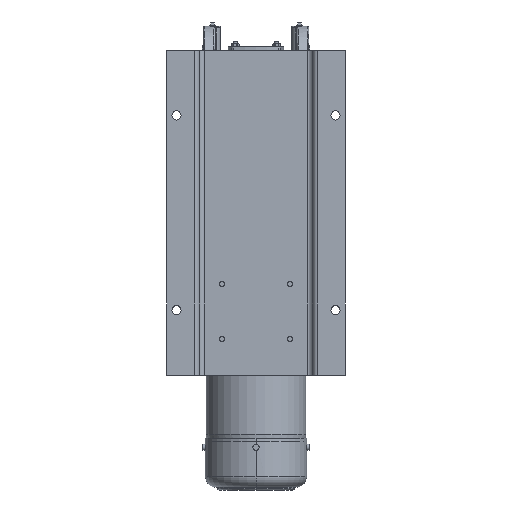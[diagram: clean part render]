
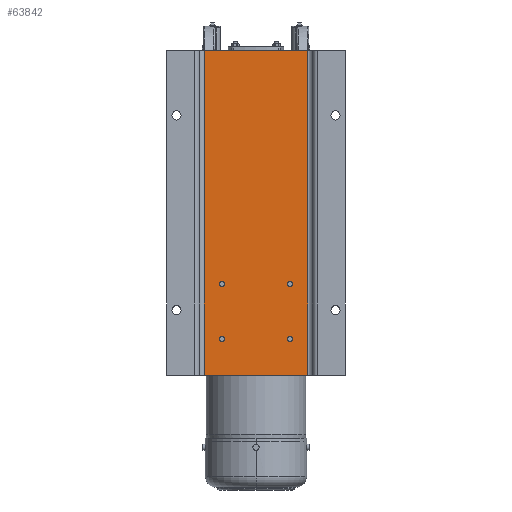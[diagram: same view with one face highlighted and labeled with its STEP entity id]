
A CAD part, front view. The second image highlights one B-rep face of the part: STEP entity #63842.
In plain terms, the highlighted planar face has unit normal (0, -1, 0).
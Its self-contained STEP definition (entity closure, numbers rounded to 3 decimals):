
#62626=DIRECTION('',(1.,0.,0.));
#62627=VECTOR('',#62626,159.);
#62628=CARTESIAN_POINT('',(-79.5,44.,-250.));
#62629=LINE('',#62628,#62627);
#62864=DIRECTION('',(0.,0.,1.));
#62865=VECTOR('',#62864,500.);
#62866=CARTESIAN_POINT('',(79.5,44.,-250.));
#62867=LINE('',#62866,#62865);
#62868=DIRECTION('',(0.,0.,1.));
#62869=VECTOR('',#62868,500.);
#62870=CARTESIAN_POINT('',(-79.5,44.,-250.));
#62871=LINE('',#62870,#62869);
#62872=CARTESIAN_POINT('',(-52.5,44.,-109.5));
#62873=DIRECTION('',(0.,1.,0.));
#62874=DIRECTION('',(1.,0.,0.));
#62875=AXIS2_PLACEMENT_3D('',#62872,#62873,#62874);
#62877=CARTESIAN_POINT('',(-52.5,44.,-109.5));
#62878=DIRECTION('',(0.,1.,0.));
#62879=DIRECTION('',(-1.,0.,0.));
#62880=AXIS2_PLACEMENT_3D('',#62877,#62878,#62879);
#62882=CARTESIAN_POINT('',(52.5,44.,-109.5));
#62883=DIRECTION('',(0.,1.,0.));
#62884=DIRECTION('',(1.,0.,0.));
#62885=AXIS2_PLACEMENT_3D('',#62882,#62883,#62884);
#62887=CARTESIAN_POINT('',(52.5,44.,-109.5));
#62888=DIRECTION('',(0.,1.,0.));
#62889=DIRECTION('',(-1.,0.,0.));
#62890=AXIS2_PLACEMENT_3D('',#62887,#62888,#62889);
#62892=CARTESIAN_POINT('',(-52.5,44.,-194.5));
#62893=DIRECTION('',(0.,1.,0.));
#62894=DIRECTION('',(1.,0.,0.));
#62895=AXIS2_PLACEMENT_3D('',#62892,#62893,#62894);
#62897=CARTESIAN_POINT('',(-52.5,44.,-194.5));
#62898=DIRECTION('',(0.,1.,0.));
#62899=DIRECTION('',(-1.,0.,0.));
#62900=AXIS2_PLACEMENT_3D('',#62897,#62898,#62899);
#62902=CARTESIAN_POINT('',(52.5,44.,-194.5));
#62903=DIRECTION('',(0.,1.,0.));
#62904=DIRECTION('',(1.,0.,0.));
#62905=AXIS2_PLACEMENT_3D('',#62902,#62903,#62904);
#62907=CARTESIAN_POINT('',(52.5,44.,-194.5));
#62908=DIRECTION('',(0.,1.,0.));
#62909=DIRECTION('',(-1.,0.,0.));
#62910=AXIS2_PLACEMENT_3D('',#62907,#62908,#62909);
#63014=DIRECTION('',(1.,0.,0.));
#63015=VECTOR('',#63014,159.);
#63016=CARTESIAN_POINT('',(-79.5,44.,250.));
#63017=LINE('',#63016,#63015);
#63286=CARTESIAN_POINT('',(-79.5,44.,-250.));
#63287=VERTEX_POINT('',#63286);
#63288=CARTESIAN_POINT('',(79.5,44.,-250.));
#63289=VERTEX_POINT('',#63288);
#63326=CARTESIAN_POINT('',(-79.5,44.,250.));
#63327=VERTEX_POINT('',#63326);
#63328=CARTESIAN_POINT('',(79.5,44.,250.));
#63329=VERTEX_POINT('',#63328);
#63412=CARTESIAN_POINT('',(-48.75,44.,-109.5));
#63413=CARTESIAN_POINT('',(-56.25,44.,-109.5));
#63414=VERTEX_POINT('',#63412);
#63415=VERTEX_POINT('',#63413);
#63420=CARTESIAN_POINT('',(56.25,44.,-109.5));
#63421=CARTESIAN_POINT('',(48.75,44.,-109.5));
#63422=VERTEX_POINT('',#63420);
#63423=VERTEX_POINT('',#63421);
#63428=CARTESIAN_POINT('',(-48.75,44.,-194.5));
#63429=CARTESIAN_POINT('',(-56.25,44.,-194.5));
#63430=VERTEX_POINT('',#63428);
#63431=VERTEX_POINT('',#63429);
#63436=CARTESIAN_POINT('',(56.25,44.,-194.5));
#63437=CARTESIAN_POINT('',(48.75,44.,-194.5));
#63438=VERTEX_POINT('',#63436);
#63439=VERTEX_POINT('',#63437);
#63805=CARTESIAN_POINT('',(-79.5,44.,-250.));
#63806=DIRECTION('',(0.,-1.,0.));
#63807=DIRECTION('',(1.,0.,0.));
#63808=AXIS2_PLACEMENT_3D('',#63805,#63806,#63807);
#63809=PLANE('',#63808);
#63810=ORIENTED_EDGE('',*,*,#63491,.F.);
#63812=ORIENTED_EDGE('',*,*,#63811,.T.);
#63814=ORIENTED_EDGE('',*,*,#63813,.T.);
#63815=ORIENTED_EDGE('',*,*,#63797,.F.);
#63816=EDGE_LOOP('',(#63810,#63812,#63814,#63815));
#63817=FACE_OUTER_BOUND('',#63816,.F.);
#63819=ORIENTED_EDGE('',*,*,#63818,.F.);
#63821=ORIENTED_EDGE('',*,*,#63820,.F.);
#63822=EDGE_LOOP('',(#63819,#63821));
#63823=FACE_BOUND('',#63822,.F.);
#63825=ORIENTED_EDGE('',*,*,#63824,.F.);
#63827=ORIENTED_EDGE('',*,*,#63826,.F.);
#63828=EDGE_LOOP('',(#63825,#63827));
#63829=FACE_BOUND('',#63828,.F.);
#63831=ORIENTED_EDGE('',*,*,#63830,.F.);
#63833=ORIENTED_EDGE('',*,*,#63832,.F.);
#63834=EDGE_LOOP('',(#63831,#63833));
#63835=FACE_BOUND('',#63834,.F.);
#63837=ORIENTED_EDGE('',*,*,#63836,.F.);
#63839=ORIENTED_EDGE('',*,*,#63838,.F.);
#63840=EDGE_LOOP('',(#63837,#63839));
#63841=FACE_BOUND('',#63840,.F.);
#63842=ADVANCED_FACE('',(#63817,#63823,#63829,#63835,#63841),#63809,.T.);
#62876=CIRCLE('',#62875,3.75);
#62881=CIRCLE('',#62880,3.75);
#62886=CIRCLE('',#62885,3.75);
#62891=CIRCLE('',#62890,3.75);
#62896=CIRCLE('',#62895,3.75);
#62901=CIRCLE('',#62900,3.75);
#62906=CIRCLE('',#62905,3.75);
#62911=CIRCLE('',#62910,3.75);
#63491=EDGE_CURVE('',#63287,#63289,#62629,.T.);
#63797=EDGE_CURVE('',#63289,#63329,#62867,.T.);
#63811=EDGE_CURVE('',#63287,#63327,#62871,.T.);
#63813=EDGE_CURVE('',#63327,#63329,#63017,.T.);
#63818=EDGE_CURVE('',#63414,#63415,#62876,.T.);
#63820=EDGE_CURVE('',#63415,#63414,#62881,.T.);
#63824=EDGE_CURVE('',#63422,#63423,#62886,.T.);
#63826=EDGE_CURVE('',#63423,#63422,#62891,.T.);
#63830=EDGE_CURVE('',#63430,#63431,#62896,.T.);
#63832=EDGE_CURVE('',#63431,#63430,#62901,.T.);
#63836=EDGE_CURVE('',#63438,#63439,#62906,.T.);
#63838=EDGE_CURVE('',#63439,#63438,#62911,.T.);
